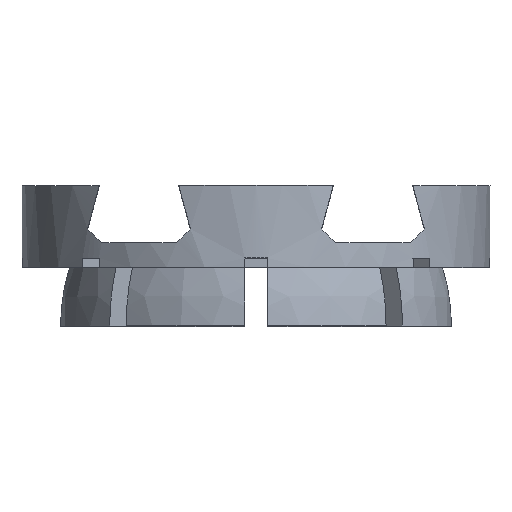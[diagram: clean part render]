
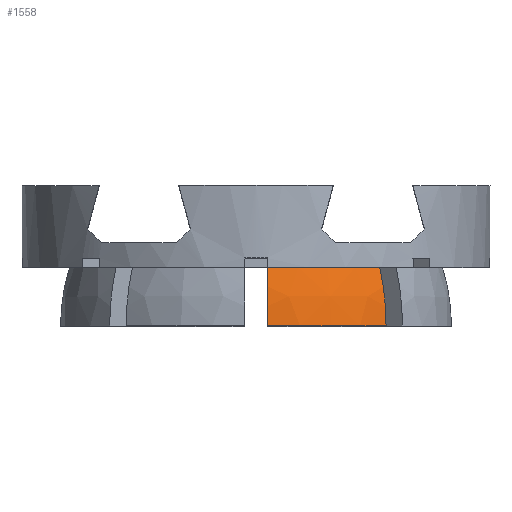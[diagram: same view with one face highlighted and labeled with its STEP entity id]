
A CAD part, top view. The second image highlights one B-rep face of the part: STEP entity #1558.
In plain terms, the highlighted spherical face has radius 8.367 mm.
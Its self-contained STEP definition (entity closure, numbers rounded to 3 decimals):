
#27=SPHERICAL_SURFACE('',#1737,8.366);
#171=FACE_OUTER_BOUND('',#256,.T.);
#256=EDGE_LOOP('',(#1372,#1373,#1374,#1375));
#574=CIRCLE('',#1650,8.352);
#578=CIRCLE('',#1658,7.984);
#580=CIRCLE('',#1663,8.352);
#616=CIRCLE('',#1738,8.366);
#713=VERTEX_POINT('',#2479);
#714=VERTEX_POINT('',#2481);
#721=VERTEX_POINT('',#2503);
#727=VERTEX_POINT('',#2521);
#879=EDGE_CURVE('',#714,#713,#574,.T.);
#891=EDGE_CURVE('',#713,#721,#578,.T.);
#900=EDGE_CURVE('',#721,#727,#580,.T.);
#992=EDGE_CURVE('',#714,#727,#616,.T.);
#1372=ORIENTED_EDGE('',*,*,#879,.T.);
#1373=ORIENTED_EDGE('',*,*,#891,.T.);
#1374=ORIENTED_EDGE('',*,*,#900,.T.);
#1375=ORIENTED_EDGE('',*,*,#992,.F.);
#1558=ADVANCED_FACE('',(#171),#27,.T.);
#1650=AXIS2_PLACEMENT_3D('',#2482,#1945,#1946);
#1658=AXIS2_PLACEMENT_3D('',#2505,#1969,#1970);
#1663=AXIS2_PLACEMENT_3D('',#2523,#1986,#1987);
#1737=AXIS2_PLACEMENT_3D('',#2703,#2190,#2191);
#1738=AXIS2_PLACEMENT_3D('',#2704,#2192,#2193);
#1945=DIRECTION('center_axis',(-0.707,0.,0.707));
#1946=DIRECTION('ref_axis',(0.,1.,0.));
#1969=DIRECTION('center_axis',(0.,-1.,0.));
#1970=DIRECTION('ref_axis',(0.,0.,1.));
#1986=DIRECTION('center_axis',(1.,0.,0.));
#1987=DIRECTION('ref_axis',(0.,0.,1.));
#2190=DIRECTION('center_axis',(0.,1.,0.));
#2191=DIRECTION('ref_axis',(0.,0.,-1.));
#2192=DIRECTION('center_axis',(0.,-1.,0.));
#2193=DIRECTION('ref_axis',(1.,0.,0.));
#2479=CARTESIAN_POINT('',(0.288,5.5,15.982));
#2481=CARTESIAN_POINT('',(0.558,3.,16.253));
#2482=CARTESIAN_POINT('Origin',(-5.347,3.,10.347));
#2503=CARTESIAN_POINT('',(-4.5,5.5,17.969));
#2505=CARTESIAN_POINT('Origin',(-5.,5.5,10.));
#2521=CARTESIAN_POINT('',(-4.5,3.,18.352));
#2523=CARTESIAN_POINT('Origin',(-4.5,3.,10.));
#2703=CARTESIAN_POINT('Origin',(-5.,3.,10.));
#2704=CARTESIAN_POINT('Origin',(-5.,3.,10.));
